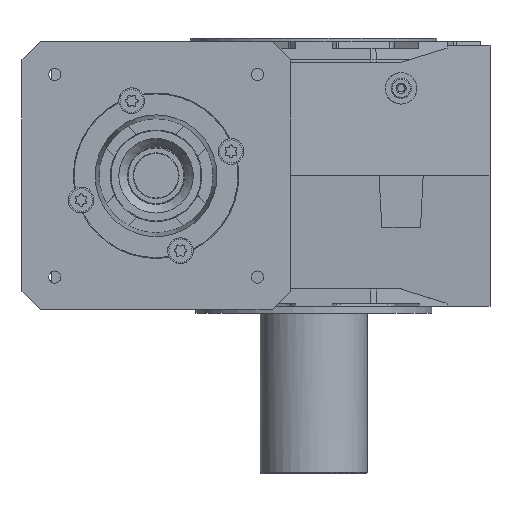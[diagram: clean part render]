
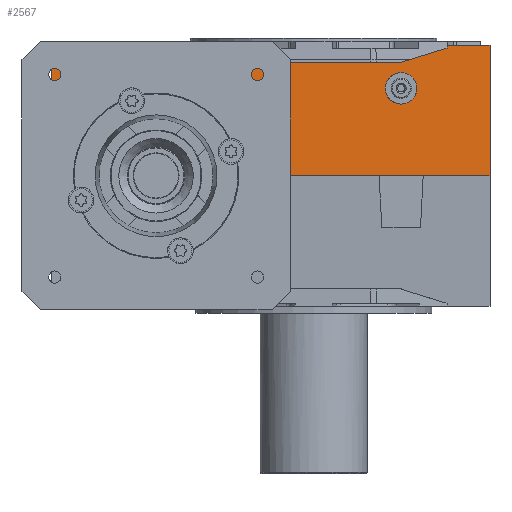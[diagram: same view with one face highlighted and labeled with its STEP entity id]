
A CAD part, left-side view. The second image highlights one B-rep face of the part: STEP entity #2567.
In plain terms, the highlighted planar face has unit normal (-0.999, 0, 0.052).
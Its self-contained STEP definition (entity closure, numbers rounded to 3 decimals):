
#2567 = ADVANCED_FACE( '', ( #5330, #5331 ), #5332, .F. );
#5330 = FACE_BOUND( '', #10250, .T. );
#5331 = FACE_OUTER_BOUND( '', #10251, .T. );
#5332 = PLANE( '', #10252 );
#10250 = EDGE_LOOP( '', ( #18947 ) );
#10251 = EDGE_LOOP( '', ( #18948, #18949, #18950, #18951, #18952, #18953, #18954, #18955, #18956, #18957, #18958, #18959, #18960, #18961, #18962, #18963 ) );
#10252 = AXIS2_PLACEMENT_3D( '', #18964, #18965, #18966 );
#18947 = ORIENTED_EDGE( '', *, *, #28740, .F. );
#18948 = ORIENTED_EDGE( '', *, *, #28741, .F. );
#18949 = ORIENTED_EDGE( '', *, *, #28742, .F. );
#18950 = ORIENTED_EDGE( '', *, *, #28743, .F. );
#18951 = ORIENTED_EDGE( '', *, *, #28744, .F. );
#18952 = ORIENTED_EDGE( '', *, *, #28745, .F. );
#18953 = ORIENTED_EDGE( '', *, *, #27209, .F. );
#18954 = ORIENTED_EDGE( '', *, *, #27474, .F. );
#18955 = ORIENTED_EDGE( '', *, *, #28739, .F. );
#18956 = ORIENTED_EDGE( '', *, *, #27233, .F. );
#18957 = ORIENTED_EDGE( '', *, *, #28746, .F. );
#18958 = ORIENTED_EDGE( '', *, *, #28747, .F. );
#18959 = ORIENTED_EDGE( '', *, *, #28748, .F. );
#18960 = ORIENTED_EDGE( '', *, *, #27262, .F. );
#18961 = ORIENTED_EDGE( '', *, *, #28749, .F. );
#18962 = ORIENTED_EDGE( '', *, *, #27410, .F. );
#18963 = ORIENTED_EDGE( '', *, *, #28750, .F. );
#18964 = CARTESIAN_POINT( '', ( -129.77, 183., 0. ) );
#18965 = DIRECTION( '', ( 0.999, 0., -0.052 ) );
#18966 = DIRECTION( '', ( -0.052, 0., -0.999 ) );
#27209 = EDGE_CURVE( '', #31704, #31705, #31706, .F. );
#27233 = EDGE_CURVE( '', #31744, #31746, #31747, .F. );
#27262 = EDGE_CURVE( '', #31796, #31798, #31799, .F. );
#27410 = EDGE_CURVE( '', #32047, #32049, #32050, .F. );
#27474 = EDGE_CURVE( '', #32154, #31704, #32156, .F. );
#28739 = EDGE_CURVE( '', #31746, #32154, #34131, .F. );
#28740 = EDGE_CURVE( '', #34132, #34132, #34133, .F. );
#28741 = EDGE_CURVE( '', #34134, #34135, #34136, .F. );
#28742 = EDGE_CURVE( '', #34137, #34134, #34138, .F. );
#28743 = EDGE_CURVE( '', #34139, #34137, #34140, .F. );
#28744 = EDGE_CURVE( '', #34141, #34139, #34142, .F. );
#28745 = EDGE_CURVE( '', #31705, #34141, #34143, .F. );
#28746 = EDGE_CURVE( '', #34144, #31744, #34145, .F. );
#28747 = EDGE_CURVE( '', #34146, #34144, #34147, .F. );
#28748 = EDGE_CURVE( '', #31798, #34146, #34148, .F. );
#28749 = EDGE_CURVE( '', #32049, #31796, #34149, .F. );
#28750 = EDGE_CURVE( '', #34135, #32047, #34150, .F. );
#31704 = VERTEX_POINT( '', #40014 );
#31705 = VERTEX_POINT( '', #40015 );
#31706 = LINE( '', #40016, #40017 );
#31744 = VERTEX_POINT( '', #40077 );
#31746 = VERTEX_POINT( '', #40080 );
#31747 = LINE( '', #40081, #40082 );
#31796 = VERTEX_POINT( '', #40157 );
#31798 = VERTEX_POINT( '', #40160 );
#31799 = LINE( '', #40161, #40162 );
#32047 = VERTEX_POINT( '', #40547 );
#32049 = VERTEX_POINT( '', #40550 );
#32050 = LINE( '', #40551, #40552 );
#32154 = VERTEX_POINT( '', #40713 );
#32156 = LINE( '', #40716, #40717 );
#34131 = LINE( '', #44655, #44656 );
#34132 = VERTEX_POINT( '', #44657 );
#34133 = ELLIPSE( '', #44658, 11.015, 11. );
#34134 = VERTEX_POINT( '', #44659 );
#34135 = VERTEX_POINT( '', #44660 );
#34136 = LINE( '', #44661, #44662 );
#34137 = VERTEX_POINT( '', #44663 );
#34138 = LINE( '', #44664, #44665 );
#34139 = VERTEX_POINT( '', #44666 );
#34140 = LINE( '', #44667, #44668 );
#34141 = VERTEX_POINT( '', #44669 );
#34142 = LINE( '', #44670, #44671 );
#34143 = LINE( '', #44672, #44673 );
#34144 = VERTEX_POINT( '', #44674 );
#34145 = LINE( '', #44675, #44676 );
#34146 = VERTEX_POINT( '', #44677 );
#34147 = LINE( '', #44678, #44679 );
#34148 = LINE( '', #44680, #44681 );
#34149 = LINE( '', #44682, #44683 );
#34150 = LINE( '', #44684, #44685 );
#40014 = CARTESIAN_POINT( '', ( -129.77, -123., 0.003 ) );
#40015 = CARTESIAN_POINT( '', ( -129.77, 50.011, 0.003 ) );
#40016 = CARTESIAN_POINT( '', ( -129.77, -123., 0.003 ) );
#40017 = VECTOR( '', #51695, 1000. );
#40077 = CARTESIAN_POINT( '', ( -125.106, -93., 89.003 ) );
#40080 = CARTESIAN_POINT( '', ( -125.001, -93., 91.003 ) );
#40081 = CARTESIAN_POINT( '', ( -125.118, -93., 88.759 ) );
#40082 = VECTOR( '', #51719, 1000. );
#40157 = CARTESIAN_POINT( '', ( -125.001, 153., 91.003 ) );
#40160 = CARTESIAN_POINT( '', ( -125.106, 153., 89.003 ) );
#40161 = CARTESIAN_POINT( '', ( -125.014, 153., 90.754 ) );
#40162 = VECTOR( '', #51750, 1000. );
#40547 = CARTESIAN_POINT( '', ( -129.77, 183., 0.003 ) );
#40550 = CARTESIAN_POINT( '', ( -125.001, 183., 91.003 ) );
#40551 = CARTESIAN_POINT( '', ( -129.77, 183., 0.003 ) );
#40552 = VECTOR( '', #51916, 1000. );
#40713 = CARTESIAN_POINT( '', ( -125.001, -123., 91.003 ) );
#40716 = CARTESIAN_POINT( '', ( -125.014, -123., 90.754 ) );
#40717 = VECTOR( '', #52021, 1000. );
#44655 = CARTESIAN_POINT( '', ( -125.001, -93., 91.003 ) );
#44656 = VECTOR( '', #54298, 1000. );
#44657 = CARTESIAN_POINT( '', ( -125.997, -61., 72. ) );
#44658 = AXIS2_PLACEMENT_3D( '', #54299, #54300, #54301 );
#44659 = CARTESIAN_POINT( '', ( -127.28, 167.5, 47.503 ) );
#44660 = CARTESIAN_POINT( '', ( -129.77, 169.989, 0.003 ) );
#44661 = CARTESIAN_POINT( '', ( -129.806, 170.025, -0.678 ) );
#44662 = VECTOR( '', #54302, 1000. );
#44663 = CARTESIAN_POINT( '', ( -126.756, 157.5, 57.503 ) );
#44664 = CARTESIAN_POINT( '', ( -126.761, 157.579, 57.424 ) );
#44665 = VECTOR( '', #54303, 1000. );
#44666 = CARTESIAN_POINT( '', ( -126.756, 62.5, 57.503 ) );
#44667 = CARTESIAN_POINT( '', ( -126.756, 62.5, 57.503 ) );
#44668 = VECTOR( '', #54304, 1000. );
#44669 = CARTESIAN_POINT( '', ( -127.28, 52.5, 47.503 ) );
#44670 = CARTESIAN_POINT( '', ( -127.284, 52.435, 47.438 ) );
#44671 = VECTOR( '', #54305, 1000. );
#44672 = CARTESIAN_POINT( '', ( -129.407, 50.374, 6.932 ) );
#44673 = VECTOR( '', #54306, 1000. );
#44674 = CARTESIAN_POINT( '', ( -125.63, -60.291, 79.003 ) );
#44675 = CARTESIAN_POINT( '', ( -125.631, -60.231, 78.984 ) );
#44676 = VECTOR( '', #54307, 1000. );
#44677 = CARTESIAN_POINT( '', ( -125.63, 120.291, 79.003 ) );
#44678 = CARTESIAN_POINT( '', ( -125.63, 120.291, 79.003 ) );
#44679 = VECTOR( '', #54308, 1000. );
#44680 = CARTESIAN_POINT( '', ( -125.107, 152.932, 88.982 ) );
#44681 = VECTOR( '', #54309, 1000. );
#44682 = CARTESIAN_POINT( '', ( -125.001, 183., 91.003 ) );
#44683 = VECTOR( '', #54310, 1000. );
#44684 = CARTESIAN_POINT( '', ( -129.77, 167.5, 0.003 ) );
#44685 = VECTOR( '', #54311, 1000. );
#51695 = DIRECTION( '', ( 0., -1., 0. ) );
#51719 = DIRECTION( '', ( -0.052, 0., -0.999 ) );
#51750 = DIRECTION( '', ( 0.052, 0., 0.999 ) );
#51916 = DIRECTION( '', ( -0.052, 0., -0.999 ) );
#52021 = DIRECTION( '', ( 0.052, 0., 0.999 ) );
#54298 = DIRECTION( '', ( 0., 1., 0. ) );
#54299 = CARTESIAN_POINT( '', ( -126.573, -61., 61. ) );
#54300 = DIRECTION( '', ( 0.999, 0., -0.052 ) );
#54301 = DIRECTION( '', ( 0.052, 0., 0.999 ) );
#54302 = DIRECTION( '', ( 0.052, -0.052, 0.997 ) );
#54303 = DIRECTION( '', ( 0.037, -0.707, 0.707 ) );
#54304 = DIRECTION( '', ( 0., -1., 0. ) );
#54305 = DIRECTION( '', ( -0.037, -0.707, -0.707 ) );
#54306 = DIRECTION( '', ( -0.052, -0.052, -0.997 ) );
#54307 = DIRECTION( '', ( -0.015, 0.956, -0.292 ) );
#54308 = DIRECTION( '', ( 0., 1., 0. ) );
#54309 = DIRECTION( '', ( 0.015, 0.956, 0.292 ) );
#54310 = DIRECTION( '', ( 0., 1., 0. ) );
#54311 = DIRECTION( '', ( 0., -1., 0. ) );
